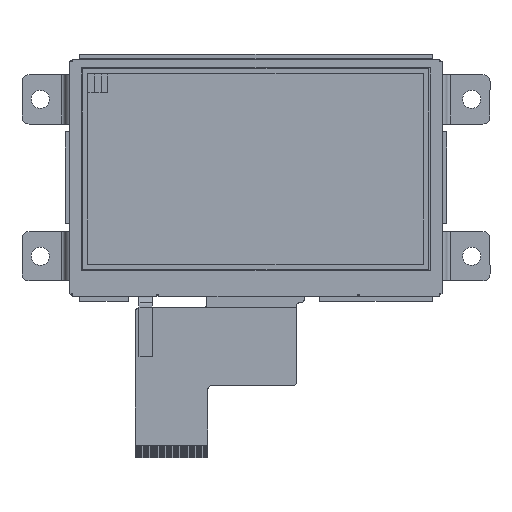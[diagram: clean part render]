
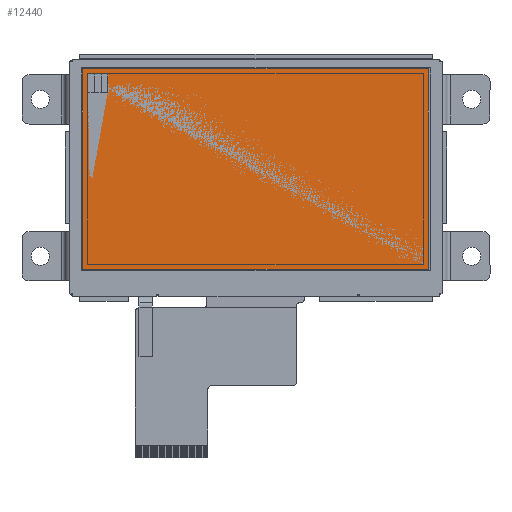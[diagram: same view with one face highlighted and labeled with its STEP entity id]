
A CAD part, top view. The second image highlights one B-rep face of the part: STEP entity #12440.
In plain terms, the highlighted planar face has unit normal (0, 0, 1) as drawn and (0, 1, 0) by its records, which use the part's own axes.
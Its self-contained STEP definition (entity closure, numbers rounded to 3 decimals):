
#158 = CARTESIAN_POINT ( 'NONE',  ( -39.739, 2.78, -26.102 ) ) ;
#182 = LINE ( 'NONE', #7255, #4811 ) ;
#269 = EDGE_CURVE ( 'NONE', #23243, #6049, #6672, .T. ) ;
#337 = ORIENTED_EDGE ( 'NONE', *, *, #17862, .T. ) ;
#455 = DIRECTION ( 'NONE',  ( 0., 1., 0. ) ) ;
#501 = LINE ( 'NONE', #9460, #23764 ) ;
#541 = ORIENTED_EDGE ( 'NONE', *, *, #7915, .T. ) ;
#643 = CARTESIAN_POINT ( 'NONE',  ( -45.443, 2.78, -31.456 ) ) ;
#792 = FACE_BOUND ( 'NONE', #15214, .T. ) ;
#865 = DIRECTION ( 'NONE',  ( -1., 0., 0. ) ) ;
#1045 = DIRECTION ( 'NONE',  ( 0., 0., -1. ) ) ;
#1159 = CARTESIAN_POINT ( 'NONE',  ( -41.603, 2.78, -26.102 ) ) ;
#1314 = LINE ( 'NONE', #19141, #20258 ) ;
#1418 = VECTOR ( 'NONE', #5679, 1000. ) ;
#2198 = PLANE ( 'NONE',  #6014 ) ;
#2230 = CARTESIAN_POINT ( 'NONE',  ( -43.494, 2.78, -4.476 ) ) ;
#2898 = LINE ( 'NONE', #20659, #7186 ) ;
#3019 = DIRECTION ( 'NONE',  ( 0., 0., -1. ) ) ;
#3340 = VECTOR ( 'NONE', #11520, 1000. ) ;
#3387 = VERTEX_POINT ( 'NONE', #19974 ) ;
#3397 = VECTOR ( 'NONE', #3019, 1000. ) ;
#3611 = EDGE_CURVE ( 'NONE', #7729, #3992, #17843, .T. ) ;
#3795 = ORIENTED_EDGE ( 'NONE', *, *, #3611, .T. ) ;
#3804 = DIRECTION ( 'NONE',  ( -1., 0., 0. ) ) ;
#3992 = VERTEX_POINT ( 'NONE', #23051 ) ;
#4029 = DIRECTION ( 'NONE',  ( 1., 0., 0. ) ) ;
#4098 = DIRECTION ( 'NONE',  ( -1., 0., 0. ) ) ;
#4128 = CARTESIAN_POINT ( 'NONE',  ( 51.077, 2.78, 23.924 ) ) ;
#4811 = VECTOR ( 'NONE', #21949, 1000. ) ;
#4836 = CARTESIAN_POINT ( 'NONE',  ( -45.443, 2.78, -26.102 ) ) ;
#5085 = VECTOR ( 'NONE', #11876, 1000. ) ;
#5552 = VECTOR ( 'NONE', #4098, 1000. ) ;
#5660 = FACE_OUTER_BOUND ( 'NONE', #15385, .T. ) ;
#5679 = DIRECTION ( 'NONE',  ( 0., 0., 1. ) ) ;
#5721 = LINE ( 'NONE', #16692, #1418 ) ;
#5783 = CARTESIAN_POINT ( 'NONE',  ( 2.077, 2.78, -31.456 ) ) ;
#5908 = VERTEX_POINT ( 'NONE', #20868 ) ;
#6014 = AXIS2_PLACEMENT_3D ( 'NONE', #11425, #455, #13311 ) ;
#6049 = VERTEX_POINT ( 'NONE', #8339 ) ;
#6666 = CARTESIAN_POINT ( 'NONE',  ( -41.63, 2.78, -31.456 ) ) ;
#6672 = LINE ( 'NONE', #5783, #20749 ) ;
#7098 = VERTEX_POINT ( 'NONE', #1159 ) ;
#7186 = VECTOR ( 'NONE', #9632, 1000. ) ;
#7255 = CARTESIAN_POINT ( 'NONE',  ( -39.739, 2.78, -4.476 ) ) ;
#7301 = EDGE_CURVE ( 'NONE', #20743, #23413, #18058, .T. ) ;
#7453 = CARTESIAN_POINT ( 'NONE',  ( -41.603, 2.78, -31.456 ) ) ;
#7516 = VERTEX_POINT ( 'NONE', #20170 ) ;
#7645 = ORIENTED_EDGE ( 'NONE', *, *, #21153, .F. ) ;
#7729 = VERTEX_POINT ( 'NONE', #16977 ) ;
#7795 = DIRECTION ( 'NONE',  ( 1., 0., 0. ) ) ;
#7915 = EDGE_CURVE ( 'NONE', #23413, #9050, #501, .T. ) ;
#8001 = VECTOR ( 'NONE', #1045, 1000. ) ;
#8195 = VERTEX_POINT ( 'NONE', #6666 ) ;
#8339 = CARTESIAN_POINT ( 'NONE',  ( -39.739, 2.78, -31.456 ) ) ;
#8382 = VERTEX_POINT ( 'NONE', #158 ) ;
#8585 = LINE ( 'NONE', #17512, #8001 ) ;
#8799 = EDGE_CURVE ( 'NONE', #8382, #7098, #1314, .T. ) ;
#9050 = VERTEX_POINT ( 'NONE', #12733 ) ;
#9162 = EDGE_CURVE ( 'NONE', #17353, #12751, #13667, .T. ) ;
#9212 = ORIENTED_EDGE ( 'NONE', *, *, #11965, .F. ) ;
#9370 = DIRECTION ( 'NONE',  ( 0., 0., -1. ) ) ;
#9460 = CARTESIAN_POINT ( 'NONE',  ( 2.077, 2.78, -31.456 ) ) ;
#9632 = DIRECTION ( 'NONE',  ( 1., 0., 0. ) ) ;
#9675 = ORIENTED_EDGE ( 'NONE', *, *, #15213, .F. ) ;
#11099 = FACE_BOUND ( 'NONE', #14936, .T. ) ;
#11425 = CARTESIAN_POINT ( 'NONE',  ( -48.883, 2.78, 25.06 ) ) ;
#11520 = DIRECTION ( 'NONE',  ( 0., 0., 1. ) ) ;
#11690 = DIRECTION ( 'NONE',  ( -1., 0., 0. ) ) ;
#11876 = DIRECTION ( 'NONE',  ( 0., 0., 1. ) ) ;
#11965 = EDGE_CURVE ( 'NONE', #7516, #17353, #19147, .T. ) ;
#12268 = EDGE_CURVE ( 'NONE', #6049, #8382, #182, .T. ) ;
#12440 = ADVANCED_FACE ( 'NONE', ( #15471, #792, #11099, #5660 ), #2198, .T. ) ;
#12733 = CARTESIAN_POINT ( 'NONE',  ( -43.579, 2.78, -31.456 ) ) ;
#12751 = VERTEX_POINT ( 'NONE', #22369 ) ;
#12780 = EDGE_CURVE ( 'NONE', #9050, #3387, #22881, .T. ) ;
#12963 = VECTOR ( 'NONE', #16943, 1000. ) ;
#13086 = VECTOR ( 'NONE', #3804, 1000. ) ;
#13311 = DIRECTION ( 'NONE',  ( 1., 0., 0. ) ) ;
#13396 = CARTESIAN_POINT ( 'NONE',  ( -43.579, 2.78, -4.476 ) ) ;
#13667 = LINE ( 'NONE', #20255, #13086 ) ;
#13922 = LINE ( 'NONE', #16715, #18770 ) ;
#14186 = ORIENTED_EDGE ( 'NONE', *, *, #19801, .T. ) ;
#14439 = EDGE_CURVE ( 'NONE', #3992, #8195, #2898, .T. ) ;
#14610 = CARTESIAN_POINT ( 'NONE',  ( -46.923, 2.78, -32.876 ) ) ;
#14936 = EDGE_LOOP ( 'NONE', ( #18584, #19951, #17634, #541 ) ) ;
#15145 = CARTESIAN_POINT ( 'NONE',  ( 2.077, 2.78, -26.102 ) ) ;
#15213 = EDGE_CURVE ( 'NONE', #12751, #16247, #8585, .T. ) ;
#15214 = EDGE_LOOP ( 'NONE', ( #14186, #21943, #3795, #23566 ) ) ;
#15385 = EDGE_LOOP ( 'NONE', ( #9212, #7645, #9675, #20718 ) ) ;
#15471 = FACE_BOUND ( 'NONE', #22256, .T. ) ;
#16032 = ORIENTED_EDGE ( 'NONE', *, *, #12268, .T. ) ;
#16247 = VERTEX_POINT ( 'NONE', #14610 ) ;
#16692 = CARTESIAN_POINT ( 'NONE',  ( -41.63, 2.78, -4.476 ) ) ;
#16715 = CARTESIAN_POINT ( 'NONE',  ( -41.603, 2.78, -4.476 ) ) ;
#16793 = DIRECTION ( 'NONE',  ( 1., 0., 0. ) ) ;
#16943 = DIRECTION ( 'NONE',  ( 0., 0., -1. ) ) ;
#16977 = CARTESIAN_POINT ( 'NONE',  ( -43.494, 2.78, -26.102 ) ) ;
#17353 = VERTEX_POINT ( 'NONE', #4128 ) ;
#17512 = CARTESIAN_POINT ( 'NONE',  ( -46.923, 2.78, -4.476 ) ) ;
#17634 = ORIENTED_EDGE ( 'NONE', *, *, #7301, .T. ) ;
#17843 = LINE ( 'NONE', #2230, #12963 ) ;
#17862 = EDGE_CURVE ( 'NONE', #7098, #23243, #13922, .T. ) ;
#17882 = EDGE_CURVE ( 'NONE', #3387, #20743, #19624, .T. ) ;
#18054 = ORIENTED_EDGE ( 'NONE', *, *, #8799, .T. ) ;
#18058 = LINE ( 'NONE', #23097, #3397 ) ;
#18351 = LINE ( 'NONE', #20845, #22998 ) ;
#18584 = ORIENTED_EDGE ( 'NONE', *, *, #12780, .T. ) ;
#18770 = VECTOR ( 'NONE', #9370, 1000. ) ;
#18868 = LINE ( 'NONE', #22489, #23198 ) ;
#19141 = CARTESIAN_POINT ( 'NONE',  ( 2.077, 2.78, -26.102 ) ) ;
#19147 = LINE ( 'NONE', #22868, #5085 ) ;
#19624 = LINE ( 'NONE', #15145, #5552 ) ;
#19801 = EDGE_CURVE ( 'NONE', #8195, #5908, #5721, .T. ) ;
#19951 = ORIENTED_EDGE ( 'NONE', *, *, #17882, .T. ) ;
#19969 = EDGE_CURVE ( 'NONE', #5908, #7729, #18351, .T. ) ;
#19974 = CARTESIAN_POINT ( 'NONE',  ( -43.579, 2.78, -26.102 ) ) ;
#20170 = CARTESIAN_POINT ( 'NONE',  ( 51.077, 2.78, -32.876 ) ) ;
#20255 = CARTESIAN_POINT ( 'NONE',  ( 2.077, 2.78, 23.924 ) ) ;
#20258 = VECTOR ( 'NONE', #865, 1000. ) ;
#20583 = ORIENTED_EDGE ( 'NONE', *, *, #269, .T. ) ;
#20659 = CARTESIAN_POINT ( 'NONE',  ( 2.077, 2.78, -31.456 ) ) ;
#20718 = ORIENTED_EDGE ( 'NONE', *, *, #9162, .F. ) ;
#20743 = VERTEX_POINT ( 'NONE', #4836 ) ;
#20749 = VECTOR ( 'NONE', #16793, 1000. ) ;
#20845 = CARTESIAN_POINT ( 'NONE',  ( 2.077, 2.78, -26.102 ) ) ;
#20868 = CARTESIAN_POINT ( 'NONE',  ( -41.63, 2.78, -26.102 ) ) ;
#21153 = EDGE_CURVE ( 'NONE', #16247, #7516, #18868, .T. ) ;
#21943 = ORIENTED_EDGE ( 'NONE', *, *, #19969, .T. ) ;
#21949 = DIRECTION ( 'NONE',  ( 0., 0., 1. ) ) ;
#22256 = EDGE_LOOP ( 'NONE', ( #16032, #18054, #337, #20583 ) ) ;
#22369 = CARTESIAN_POINT ( 'NONE',  ( -46.923, 2.78, 23.924 ) ) ;
#22489 = CARTESIAN_POINT ( 'NONE',  ( 2.077, 2.78, -32.876 ) ) ;
#22868 = CARTESIAN_POINT ( 'NONE',  ( 51.077, 2.78, -4.476 ) ) ;
#22881 = LINE ( 'NONE', #13396, #3340 ) ;
#22998 = VECTOR ( 'NONE', #11690, 1000. ) ;
#23051 = CARTESIAN_POINT ( 'NONE',  ( -43.494, 2.78, -31.456 ) ) ;
#23097 = CARTESIAN_POINT ( 'NONE',  ( -45.443, 2.78, -4.476 ) ) ;
#23198 = VECTOR ( 'NONE', #7795, 1000. ) ;
#23243 = VERTEX_POINT ( 'NONE', #7453 ) ;
#23413 = VERTEX_POINT ( 'NONE', #643 ) ;
#23566 = ORIENTED_EDGE ( 'NONE', *, *, #14439, .T. ) ;
#23764 = VECTOR ( 'NONE', #4029, 1000. ) ;
